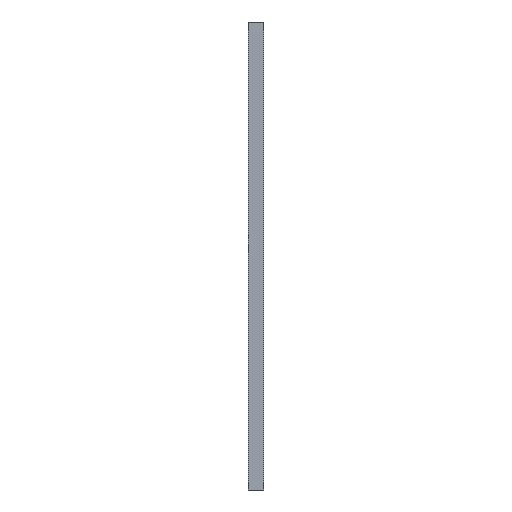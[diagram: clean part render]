
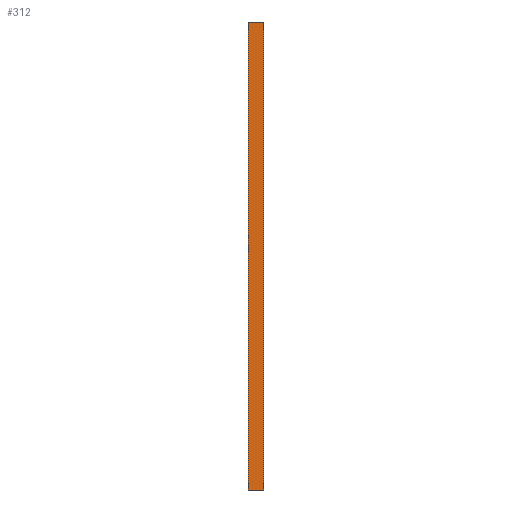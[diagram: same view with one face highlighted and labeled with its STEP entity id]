
A CAD part, front view. The second image highlights one B-rep face of the part: STEP entity #312.
In plain terms, the highlighted planar face has unit normal (0, -1, 0).
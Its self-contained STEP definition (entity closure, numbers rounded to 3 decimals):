
#21 = EDGE_CURVE('',#22,#24,#26,.T.);
#22 = VERTEX_POINT('',#23);
#23 = CARTESIAN_POINT('',(-1.,-30.,37.));
#24 = VERTEX_POINT('',#25);
#25 = CARTESIAN_POINT('',(-1.,-30.,97.));
#26 = SURFACE_CURVE('',#27,(#31,#43),.PCURVE_S1.);
#27 = LINE('',#28,#29);
#28 = CARTESIAN_POINT('',(-1.,-30.,37.));
#29 = VECTOR('',#30,1.);
#30 = DIRECTION('',(0.,0.,1.));
#31 = PCURVE('',#32,#37);
#32 = PLANE('',#33);
#33 = AXIS2_PLACEMENT_3D('',#34,#35,#36);
#34 = CARTESIAN_POINT('',(-1.,-30.,37.));
#35 = DIRECTION('',(1.,0.,0.));
#36 = DIRECTION('',(0.,0.,1.));
#37 = DEFINITIONAL_REPRESENTATION('',(#38),#42);
#38 = LINE('',#39,#40);
#39 = CARTESIAN_POINT('',(0.,0.));
#40 = VECTOR('',#41,1.);
#41 = DIRECTION('',(1.,0.));
#42 = ( GEOMETRIC_REPRESENTATION_CONTEXT(2) 
PARAMETRIC_REPRESENTATION_CONTEXT() REPRESENTATION_CONTEXT('2D SPACE',''
  ) );
#43 = PCURVE('',#44,#49);
#44 = PLANE('',#45);
#45 = AXIS2_PLACEMENT_3D('',#46,#47,#48);
#46 = CARTESIAN_POINT('',(-1.,-30.,37.));
#47 = DIRECTION('',(0.,1.,0.));
#48 = DIRECTION('',(0.,0.,1.));
#49 = DEFINITIONAL_REPRESENTATION('',(#50),#54);
#50 = LINE('',#51,#52);
#51 = CARTESIAN_POINT('',(0.,0.));
#52 = VECTOR('',#53,1.);
#53 = DIRECTION('',(1.,0.));
#54 = ( GEOMETRIC_REPRESENTATION_CONTEXT(2) 
PARAMETRIC_REPRESENTATION_CONTEXT() REPRESENTATION_CONTEXT('2D SPACE',''
  ) );
#72 = PLANE('',#73);
#73 = AXIS2_PLACEMENT_3D('',#74,#75,#76);
#74 = CARTESIAN_POINT('',(-1.,-30.,37.));
#75 = DIRECTION('',(0.,0.,1.));
#76 = DIRECTION('',(1.,0.,0.));
#126 = PLANE('',#127);
#127 = AXIS2_PLACEMENT_3D('',#128,#129,#130);
#128 = CARTESIAN_POINT('',(-1.,-30.,97.));
#129 = DIRECTION('',(0.,0.,1.));
#130 = DIRECTION('',(1.,0.,0.));
#312 = ADVANCED_FACE('',(#313),#44,.F.);
#313 = FACE_BOUND('',#314,.F.);
#314 = EDGE_LOOP('',(#315,#338,#339,#362));
#315 = ORIENTED_EDGE('',*,*,#316,.F.);
#316 = EDGE_CURVE('',#22,#317,#319,.T.);
#317 = VERTEX_POINT('',#318);
#318 = CARTESIAN_POINT('',(1.,-30.,37.));
#319 = SURFACE_CURVE('',#320,(#324,#331),.PCURVE_S1.);
#320 = LINE('',#321,#322);
#321 = CARTESIAN_POINT('',(-1.,-30.,37.));
#322 = VECTOR('',#323,1.);
#323 = DIRECTION('',(1.,0.,0.));
#324 = PCURVE('',#44,#325);
#325 = DEFINITIONAL_REPRESENTATION('',(#326),#330);
#326 = LINE('',#327,#328);
#327 = CARTESIAN_POINT('',(0.,0.));
#328 = VECTOR('',#329,1.);
#329 = DIRECTION('',(0.,1.));
#330 = ( GEOMETRIC_REPRESENTATION_CONTEXT(2) 
PARAMETRIC_REPRESENTATION_CONTEXT() REPRESENTATION_CONTEXT('2D SPACE',''
  ) );
#331 = PCURVE('',#72,#332);
#332 = DEFINITIONAL_REPRESENTATION('',(#333),#337);
#333 = LINE('',#334,#335);
#334 = CARTESIAN_POINT('',(0.,0.));
#335 = VECTOR('',#336,1.);
#336 = DIRECTION('',(1.,0.));
#337 = ( GEOMETRIC_REPRESENTATION_CONTEXT(2) 
PARAMETRIC_REPRESENTATION_CONTEXT() REPRESENTATION_CONTEXT('2D SPACE',''
  ) );
#338 = ORIENTED_EDGE('',*,*,#21,.T.);
#339 = ORIENTED_EDGE('',*,*,#340,.T.);
#340 = EDGE_CURVE('',#24,#341,#343,.T.);
#341 = VERTEX_POINT('',#342);
#342 = CARTESIAN_POINT('',(1.,-30.,97.));
#343 = SURFACE_CURVE('',#344,(#348,#355),.PCURVE_S1.);
#344 = LINE('',#345,#346);
#345 = CARTESIAN_POINT('',(-1.,-30.,97.));
#346 = VECTOR('',#347,1.);
#347 = DIRECTION('',(1.,0.,0.));
#348 = PCURVE('',#44,#349);
#349 = DEFINITIONAL_REPRESENTATION('',(#350),#354);
#350 = LINE('',#351,#352);
#351 = CARTESIAN_POINT('',(60.,0.));
#352 = VECTOR('',#353,1.);
#353 = DIRECTION('',(0.,1.));
#354 = ( GEOMETRIC_REPRESENTATION_CONTEXT(2) 
PARAMETRIC_REPRESENTATION_CONTEXT() REPRESENTATION_CONTEXT('2D SPACE',''
  ) );
#355 = PCURVE('',#126,#356);
#356 = DEFINITIONAL_REPRESENTATION('',(#357),#361);
#357 = LINE('',#358,#359);
#358 = CARTESIAN_POINT('',(0.,0.));
#359 = VECTOR('',#360,1.);
#360 = DIRECTION('',(1.,0.));
#361 = ( GEOMETRIC_REPRESENTATION_CONTEXT(2) 
PARAMETRIC_REPRESENTATION_CONTEXT() REPRESENTATION_CONTEXT('2D SPACE',''
  ) );
#362 = ORIENTED_EDGE('',*,*,#363,.F.);
#363 = EDGE_CURVE('',#317,#341,#364,.T.);
#364 = SURFACE_CURVE('',#365,(#369,#376),.PCURVE_S1.);
#365 = LINE('',#366,#367);
#366 = CARTESIAN_POINT('',(1.,-30.,37.));
#367 = VECTOR('',#368,1.);
#368 = DIRECTION('',(0.,0.,1.));
#369 = PCURVE('',#44,#370);
#370 = DEFINITIONAL_REPRESENTATION('',(#371),#375);
#371 = LINE('',#372,#373);
#372 = CARTESIAN_POINT('',(0.,2.));
#373 = VECTOR('',#374,1.);
#374 = DIRECTION('',(1.,0.));
#375 = ( GEOMETRIC_REPRESENTATION_CONTEXT(2) 
PARAMETRIC_REPRESENTATION_CONTEXT() REPRESENTATION_CONTEXT('2D SPACE',''
  ) );
#376 = PCURVE('',#377,#382);
#377 = PLANE('',#378);
#378 = AXIS2_PLACEMENT_3D('',#379,#380,#381);
#379 = CARTESIAN_POINT('',(1.,-30.,37.));
#380 = DIRECTION('',(1.,0.,0.));
#381 = DIRECTION('',(0.,0.,1.));
#382 = DEFINITIONAL_REPRESENTATION('',(#383),#387);
#383 = LINE('',#384,#385);
#384 = CARTESIAN_POINT('',(0.,0.));
#385 = VECTOR('',#386,1.);
#386 = DIRECTION('',(1.,0.));
#387 = ( GEOMETRIC_REPRESENTATION_CONTEXT(2) 
PARAMETRIC_REPRESENTATION_CONTEXT() REPRESENTATION_CONTEXT('2D SPACE',''
  ) );
